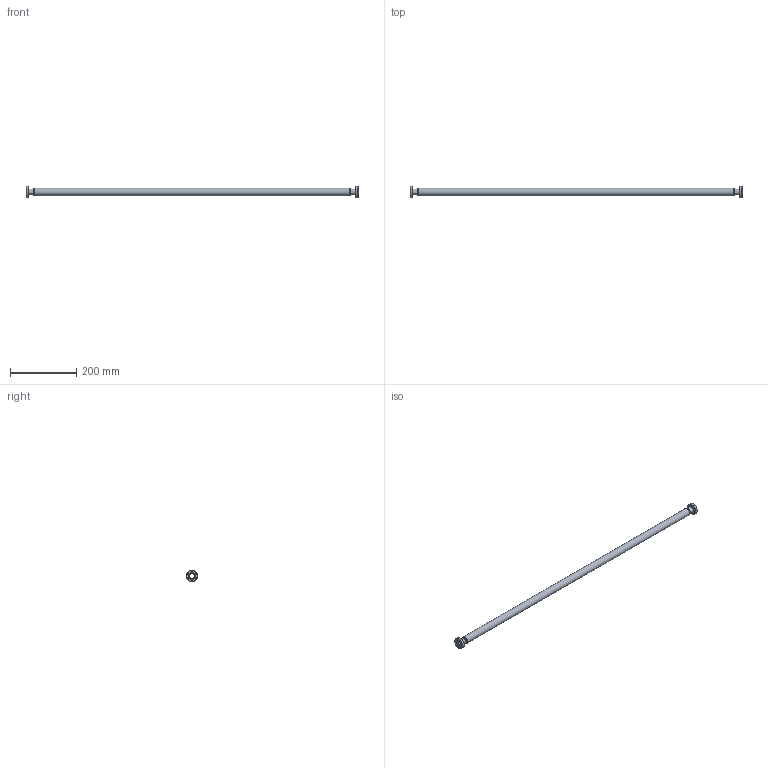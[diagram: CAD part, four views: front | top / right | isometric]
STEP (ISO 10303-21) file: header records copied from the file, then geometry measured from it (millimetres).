
FILE_DESCRIPTION((''),'2;1');
FILE_NAME('W:\13785_CF_Global_Fit_Umsetzung\182_Flexible_Metal\M213-364.stp','2010-09-01T14:51:44',('KAA'),(''),'Autodesk Inventor 2011','Autodesk Inventor 2011','');
FILE_SCHEMA(('AUTOMOTIVE_DESIGN { 1 0 10303 214 1 1 1 1 }'));
Length unit declared in the file: millimetre
Products named in the file (1): 213-364
Bounding box: 1000 x 34 x 34 mm (x, y, z)
Volume: 23876.1 mm3; surface area: 146476.1 mm2
Topology: 1 solids, 1 shells, 114 faces, 244 edges, 155 vertices
Faces by surface type: cone 37, cylinder 29, plane 27, torus 21
Full cylindrical faces by diameter (mm): 4.4 x12, 16 x2, 17.2 x2, 18 x2, 18.3 x2, 18.6 x1, 21.3 x1, 21.4 x1, 22.1 x1, 22.5 x1, 34 x2
Entity records: 2791 total; most frequent: DIRECTION 482, CARTESIAN_POINT 476, ORIENTED_EDGE 288, EDGE_LOOP 243, AXIS2_PLACEMENT_3D 239, EDGE_CURVE 144, VERTEX_POINT 135, FACE_BOUND 129
